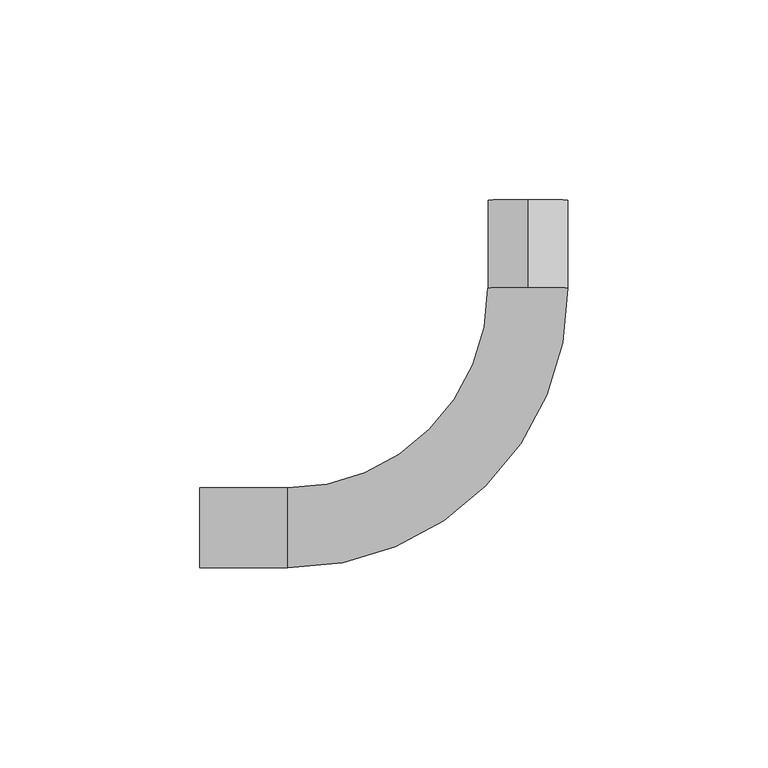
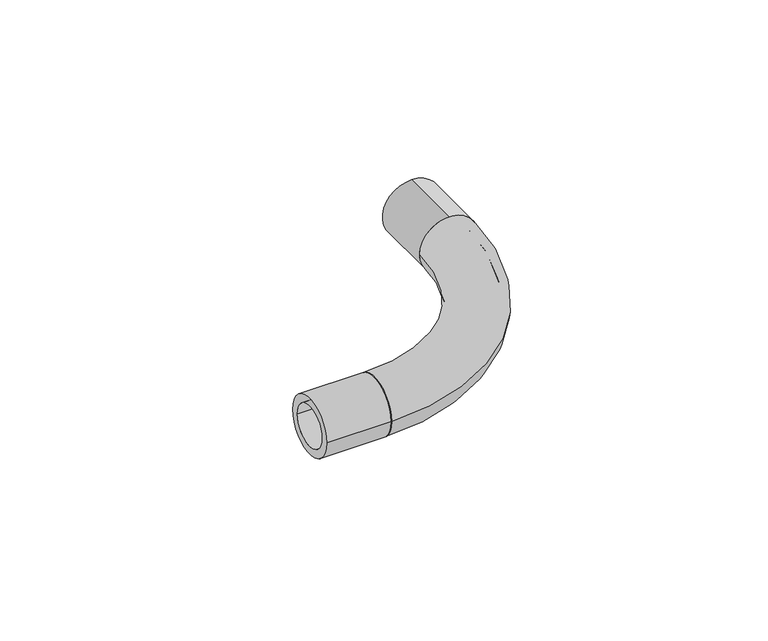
"""IFC4 building model written with IfcOpenShell, lengths in millimetres: pipe fitting geometry, REHAU_RAUTITAN_Pipe bend with former : REHAU_RAUTITAN_Pipe bend with former."""

from ifc_helpers import new_model, si_unit, point, frame, origin, origin_2d, place, context, project, spatial, circle_curve, ellipse_curve, trimmed, segment, composite_curve, outline, extrude, source, transform, mapped, element, save
from ifc_brep_helpers import plane_surface, revolved_surface, advanced_brep


def pipe_fitting_c4648172(model_context):
    return source(origin(), model_context, "Body", "SolidModel", [
        advanced_brep(
        [(-60.0, -10.0, 0.0), (-60.0, 10.0, 0.0), (-60.0, -7.2, 0.0), (-60.0, 7.2, 0.0), (10.0, 60.0, 0.0), (-10.0, 60.0, 0.0), (7.2, 60.0, 0.0), (-7.2, 60.0, 0.0)],
        [
            (0, 1, circle_curve(frame((-60.0, 0.0, 0.0), z_axis=(-1.0, 0.0, 0.0), x_axis=(0.0, 1.0, 0.0)), 10.0)),
            (1, 0, circle_curve(frame((-60.0, 0.0, 0.0), z_axis=(-1.0, 0.0, 0.0), x_axis=(0.0, 1.0, 0.0)), 10.0)),
            (2, 3, circle_curve(frame((-60.0, 0.0, 0.0), z_axis=(1.0, 0.0, 0.0), x_axis=(0.0, 1.0, 0.0)), 7.2)),
            (3, 2, circle_curve(frame((-60.0, 0.0, 0.0), z_axis=(1.0, 0.0, 0.0), x_axis=(0.0, 1.0, 0.0)), 7.2)),
            (4, 5, circle_curve(frame((0.0, 60.0, 0.0), z_axis=(0.0, 1.0, 0.0), x_axis=(-1.0, 0.0, 0.0)), 10.0)),
            (5, 4, circle_curve(frame((0.0, 60.0, 0.0), z_axis=(0.0, 1.0, 0.0), x_axis=(-1.0, 0.0, 0.0)), 10.0)),
            (6, 7, circle_curve(frame((0.0, 60.0, 0.0), z_axis=(0.0, -1.0, 0.0), x_axis=(-1.0, 0.0, 0.0)), 7.2)),
            (7, 6, circle_curve(frame((0.0, 60.0, 0.0), z_axis=(0.0, -1.0, 0.0), x_axis=(-1.0, 0.0, 0.0)), 7.2)),
            (5, 1, circle_curve(frame((-60.0, 60.0, 0.0), z_axis=(0.0, 0.0, -1.0), x_axis=(0.0, -1.0, 0.0)), 50.0)),
            (0, 4, circle_curve(frame((-60.0, 60.0, 0.0), z_axis=(0.0, 0.0, 1.0), x_axis=(0.0, -1.0, 0.0)), 70.0)),
            (7, 3, circle_curve(frame((-60.0, 60.0, 0.0), z_axis=(0.0, 0.0, -1.0), x_axis=(0.0, -1.0, 0.0)), 52.8)),
            (2, 6, circle_curve(frame((-60.0, 60.0, 0.0), z_axis=(0.0, 0.0, 1.0), x_axis=(0.0, -1.0, 0.0)), 67.2)),
        ],
        [
            plane_surface(frame((-60.0, 0.0, 0.0), z_axis=(-1.0, 0.0, 0.0), x_axis=(0.0, 0.0, 1.0))),
            plane_surface(frame((0.0, 60.0, 0.0), z_axis=(0.0, 1.0, 0.0), x_axis=(0.0, 0.0, 1.0))),
            revolved_surface(trimmed(ellipse_curve(frame((-60.0, 0.0, 0.0), z_axis=(-1.0, 0.0, 0.0), x_axis=(0.0, 1.0, 0.0)), 10.0, 10.0), [point((-60.0, -10.0, 0.0))], [point((-60.0, 10.0, 0.0))], True, "CARTESIAN"), (-60.0, 60.0, 0.0), (0.0, 0.0, 1.0)),
            revolved_surface(trimmed(ellipse_curve(frame((-60.0, 0.0, 0.0), z_axis=(-1.0, 0.0, 0.0), x_axis=(0.0, 1.0, 0.0)), 10.0, 10.0), [point((-60.0, 10.0, 0.0))], [point((-60.0, -10.0, 0.0))], True, "CARTESIAN"), (-60.0, 60.0, 0.0), (0.0, 0.0, 1.0)),
            revolved_surface(trimmed(ellipse_curve(frame((-60.0, 0.0, 0.0), z_axis=(1.0, 0.0, 0.0), x_axis=(0.0, 1.0, 0.0)), 7.2, 7.2), [point((-60.0, -7.2, 0.0))], [point((-60.0, 7.2, 0.0))], True, "CARTESIAN"), (-60.0, 60.0, 0.0), (0.0, 0.0, 1.0)),
            revolved_surface(trimmed(ellipse_curve(frame((-60.0, 0.0, 0.0), z_axis=(1.0, 0.0, 0.0), x_axis=(0.0, 1.0, 0.0)), 7.2, 7.2), [point((-60.0, 7.2, 0.0))], [point((-60.0, -7.2, 0.0))], True, "CARTESIAN"), (-60.0, 60.0, 0.0), (0.0, 0.0, 1.0)),
        ],
        [
            (0, [[1, 2], [3, 4]]),
            (1, [[5, 6], [7, 8]]),
            (2, [[9, -1, 10, -6]]),
            (3, [[-10, -2, -9, -5]]),
            (4, [[11, -3, 12, -8]]),
            (5, [[-12, -4, -11, -7]]),
        ],
    ),
        extrude(outline(composite_curve([segment(trimmed(circle_curve(origin_2d(), 10.0), [point((10.0, 0.0))], [point((-10.0, 0.0))], False, "CARTESIAN"), True, "CONTINUOUS"), segment(trimmed(circle_curve(origin_2d(), 10.0), [point((-10.0, 0.0))], [point((10.0, 0.0))], False, "CARTESIAN"), True, "CONTINUOUS")], self_intersect=False), holes=[composite_curve([segment(trimmed(circle_curve(origin_2d(), 7.2), [point((7.2, 0.0))], [point((-7.2, 0.0))], True, "CARTESIAN"), True, "CONTINUOUS"), segment(trimmed(circle_curve(origin_2d(), 7.2), [point((-7.2, 0.0))], [point((7.2, 0.0))], True, "CARTESIAN"), True, "CONTINUOUS")], self_intersect=False)]), frame((-82.0, 0.0, 0.0), z_axis=(1.0, 0.0, 0.0), x_axis=(0.0, 1.0, 0.0)), (0.0, 0.0, 1.0), 22.0),
        extrude(outline(composite_curve([segment(trimmed(circle_curve(origin_2d(), 10.0), [point((-10.0, 0.0))], [point((10.0, 0.0))], False, "CARTESIAN"), True, "CONTINUOUS"), segment(trimmed(circle_curve(origin_2d(), 10.0), [point((10.0, 0.0))], [point((-10.0, 0.0))], False, "CARTESIAN"), True, "CONTINUOUS")], self_intersect=False), holes=[composite_curve([segment(trimmed(circle_curve(origin_2d(), 7.2), [point((-7.2, 0.0))], [point((7.2, 0.0))], True, "CARTESIAN"), True, "CONTINUOUS"), segment(trimmed(circle_curve(origin_2d(), 7.2), [point((7.2, 0.0))], [point((-7.2, 0.0))], True, "CARTESIAN"), True, "CONTINUOUS")], self_intersect=False)]), frame((0.0, 60.0, 0.0), z_axis=(0.0, 1.0, 0.0), x_axis=(0.0, 0.0, 1.0)), (0.0, 0.0, 1.0), 22.0),
    ])


if __name__ == "__main__":
    model = new_model("IFC4")
    model_context = context("Model", 3, world=origin())
    ifc_project = project(units=[si_unit("LENGTHUNIT", "METRE", prefix="MILLI")], contexts=[model_context])
    site = spatial("IfcSite", under=ifc_project)
    building = spatial("IfcBuilding", under=site)
    placement = place(None, origin())
    pipe_fitting_shape = pipe_fitting_c4648172(model_context)
    element("IfcPipeFitting", 1, ObjectType="REHAU_RAUTITAN_Pipe bend with former : REHAU_RAUTITAN_Pipe bend with former", at=placement, inside=building, context=model_context, shape_type="MappedRepresentation", body=[
        mapped(pipe_fitting_shape, transform((0.0, 0.0, 0.0), x_axis=(1.0, 0.0, 0.0), y_axis=(0.0, 1.0, 0.0), z_axis=(0.0, 0.0, 1.0))),
    ])
    save(model, "model.ifc")
